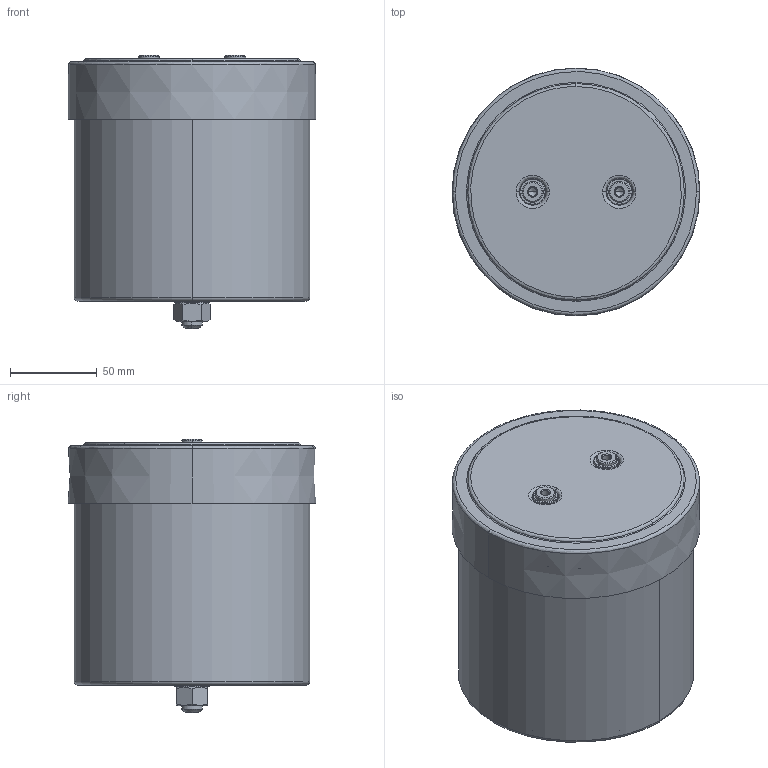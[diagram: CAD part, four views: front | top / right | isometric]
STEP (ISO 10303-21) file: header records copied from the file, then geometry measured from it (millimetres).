
FILE_DESCRIPTION (( 'STEP AP203' ), '1' );
FILE_NAME ('B25680Cx_136x140_142.STEP', '2021-09-30T08:04:18', ( '' ), ( '' ), 'SwSTEP 2.0', 'SolidWorks 2017', '' );
FILE_SCHEMA (( 'CONFIG_CONTROL_DESIGN' ));
Length unit declared in the file: millimetre
Products named in the file (1): B25680Cx_136x140_142
Bounding box: 143.08 x 143.08 x 158 mm (x, y, z)
Volume: 192292 mm3; surface area: 262458.3 mm2
Topology: 1 solids, 8 shells, 696 faces, 1792 edges, 1125 vertices
Faces by surface type: plane 219, cylinder 183, bspline 160, cone 102, torus 32
Entity records: 27764 total; most frequent: CARTESIAN_POINT 11680, ORIENTED_EDGE 3556, DIRECTION 3173, EDGE_CURVE 1778, AXIS2_PLACEMENT_3D 1302, VERTEX_POINT 1125, CIRCLE 765, EDGE_LOOP 755
